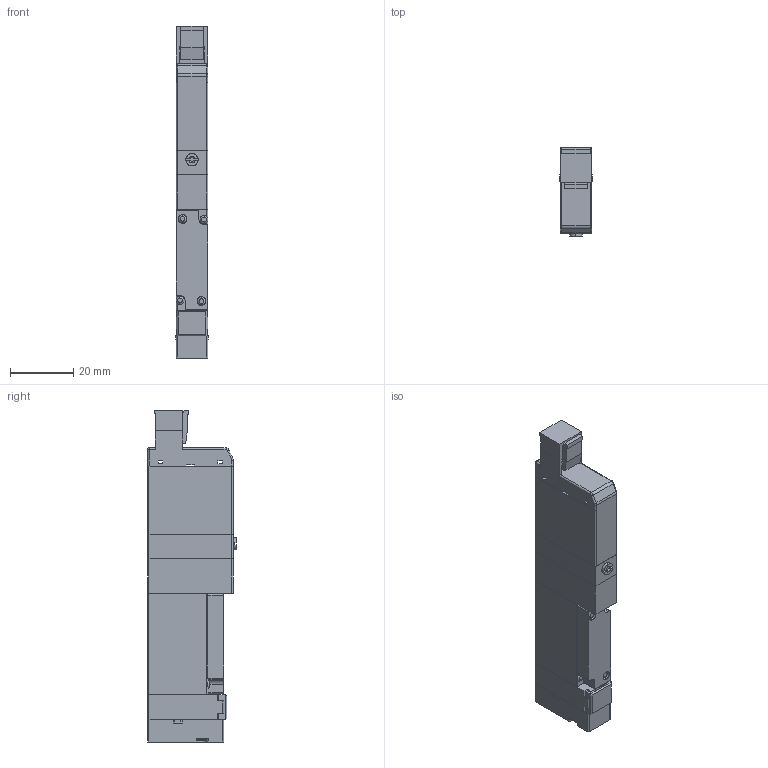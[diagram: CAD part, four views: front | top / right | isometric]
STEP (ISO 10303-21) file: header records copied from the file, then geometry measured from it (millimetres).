
FILE_DESCRIPTION( (''), '2;1');
FILE_NAME ('CVICAD02.13484.F10T1-A1-PS_5751.stp','2020-09-01T14:10:02',(''),(''),'spGate 12.6.6','','');
FILE_SCHEMA (('AUTOMOTIVE_DESIGN'));
Length unit declared in the file: millimetre
Products named in the file (8): Assembly; F10_Adptor; F_3PortBody; F10_Cap; F10_SwitchBlock1; F10T_Body; F_Connector-PS; F10_A1
Assembly tree (7 placements, depth 2):
  Assembly
    F10_Adptor
    F_3PortBody
    F10_Cap
    F10_SwitchBlock1
    F10T_Body
    F_Connector-PS
    F10_A1
Bounding box: 10.2 x 28 x 105 mm (x, y, z)
Volume: 24338.7 mm3; surface area: 11504.8 mm2
Topology: 7 solids, 7 shells, 314 faces, 824 edges, 536 vertices
Faces by surface type: plane 201, cylinder 89, bspline 22, sphere 2
Entity records: 16718 total; most frequent: CARTESIAN_POINT 2151, ORIENTED_EDGE 1644, DIRECTION 1615, COLOUR_RGB 1143, PRESENTATION_STYLE_ASSIGNMENT 1143, STYLED_ITEM 1143, EDGE_CURVE 822, DRAUGHTING_PRE_DEFINED_CURVE_FONT 822
